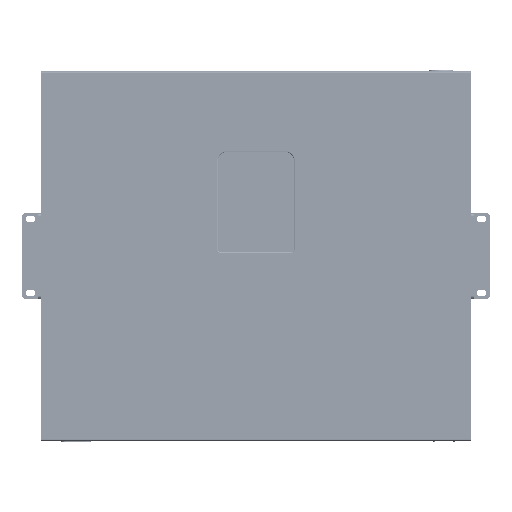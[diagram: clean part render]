
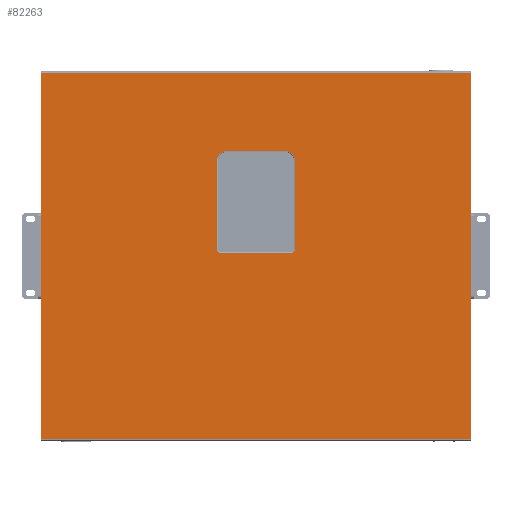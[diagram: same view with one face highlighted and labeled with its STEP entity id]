
A CAD part, front view. The second image highlights one B-rep face of the part: STEP entity #82263.
In plain terms, the highlighted planar face has unit normal (0, -1, 0).
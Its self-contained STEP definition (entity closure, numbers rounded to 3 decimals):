
#2909 = VERTEX_POINT ( 'NONE', #248722 ) ;
#3036 = VERTEX_POINT ( 'NONE', #143486 ) ;
#3383 = EDGE_CURVE ( 'NONE', #136715, #126022, #215223, .T. ) ;
#6390 = DIRECTION ( 'NONE',  ( -1., 0., 0. ) ) ;
#10913 = ORIENTED_EDGE ( 'NONE', *, *, #108799, .F. ) ;
#14272 = ORIENTED_EDGE ( 'NONE', *, *, #126897, .T. ) ;
#19948 = DIRECTION ( 'NONE',  ( 0., 1., 0. ) ) ;
#21394 = DIRECTION ( 'NONE',  ( 0., 0., 1. ) ) ;
#27799 = LINE ( 'NONE', #241231, #219683 ) ;
#31860 = DIRECTION ( 'NONE',  ( 0., 0., 1. ) ) ;
#33067 = DIRECTION ( 'NONE',  ( 0., 0., 1. ) ) ;
#34026 = AXIS2_PLACEMENT_3D ( 'NONE', #43295, #130186, #216999 ) ;
#35843 = EDGE_CURVE ( 'NONE', #2909, #109086, #265339, .T. ) ;
#37275 = DIRECTION ( 'NONE',  ( 0., 0., -1. ) ) ;
#42375 = DIRECTION ( 'NONE',  ( 0., 0., -1. ) ) ;
#43295 = CARTESIAN_POINT ( 'NONE',  ( -31., 0., -91.5 ) ) ;
#43357 = CARTESIAN_POINT ( 'NONE',  ( 40.018, 0., -183.5 ) ) ;
#47294 = DIRECTION ( 'NONE',  ( 0., 0., 1. ) ) ;
#47298 = CIRCLE ( 'NONE', #265439, 4.018 ) ;
#47795 = ORIENTED_EDGE ( 'NONE', *, *, #88976, .T. ) ;
#51467 = LINE ( 'NONE', #176905, #81908 ) ;
#59534 = CARTESIAN_POINT ( 'NONE',  ( 221.5, 0., -381. ) ) ;
#63149 = VERTEX_POINT ( 'NONE', #245375 ) ;
#71940 = VECTOR ( 'NONE', #227772, 1000. ) ;
#73157 = VECTOR ( 'NONE', #271735, 1000. ) ;
#75946 = CARTESIAN_POINT ( 'NONE',  ( -40.018, 0., -91.5 ) ) ;
#79139 = EDGE_CURVE ( 'NONE', #181789, #188077, #47298, .T. ) ;
#80632 = EDGE_LOOP ( 'NONE', ( #10913, #233728, #119915, #84868 ) ) ;
#81908 = VECTOR ( 'NONE', #47294, 1000. ) ;
#82263 = ADVANCED_FACE ( 'NONE', ( #148840, #127394 ), #101791, .F. ) ;
#83179 = DIRECTION ( 'NONE',  ( 0., 0., 1. ) ) ;
#83360 = EDGE_CURVE ( 'NONE', #188077, #131880, #142841, .T. ) ;
#84868 = ORIENTED_EDGE ( 'NONE', *, *, #148171, .T. ) ;
#88976 = EDGE_CURVE ( 'NONE', #131631, #181789, #180970, .T. ) ;
#96441 = CARTESIAN_POINT ( 'NONE',  ( -40.018, 0., -91.5 ) ) ;
#100331 = CARTESIAN_POINT ( 'NONE',  ( -40.018, 0., -183.5 ) ) ;
#101791 = PLANE ( 'NONE',  #272269 ) ;
#104938 = ORIENTED_EDGE ( 'NONE', *, *, #3383, .T. ) ;
#108799 = EDGE_CURVE ( 'NONE', #2909, #3036, #51467, .T. ) ;
#109086 = VERTEX_POINT ( 'NONE', #271710 ) ;
#113195 = ORIENTED_EDGE ( 'NONE', *, *, #264216, .T. ) ;
#119915 = ORIENTED_EDGE ( 'NONE', *, *, #176641, .F. ) ;
#122900 = DIRECTION ( 'NONE',  ( 0., 1., 0. ) ) ;
#124521 = CARTESIAN_POINT ( 'NONE',  ( 0., 0., 0. ) ) ;
#125657 = EDGE_LOOP ( 'NONE', ( #14272, #113195, #104938, #219270, #47795, #144237, #269689, #276453 ) ) ;
#126022 = VERTEX_POINT ( 'NONE', #43357 ) ;
#126897 = EDGE_CURVE ( 'NONE', #250284, #63149, #251720, .T. ) ;
#127394 = FACE_OUTER_BOUND ( 'NONE', #80632, .T. ) ;
#130186 = DIRECTION ( 'NONE',  ( 0., 1., 0. ) ) ;
#131631 = VERTEX_POINT ( 'NONE', #274508 ) ;
#131880 = VERTEX_POINT ( 'NONE', #96441 ) ;
#133683 = VERTEX_POINT ( 'NONE', #180719 ) ;
#136715 = VERTEX_POINT ( 'NONE', #273480 ) ;
#138779 = DIRECTION ( 'NONE',  ( 1., 0., 0. ) ) ;
#139840 = AXIS2_PLACEMENT_3D ( 'NONE', #254977, #145572, #33067 ) ;
#142841 = LINE ( 'NONE', #75946, #177053 ) ;
#143486 = CARTESIAN_POINT ( 'NONE',  ( -221.5, 0., -1.6 ) ) ;
#144237 = ORIENTED_EDGE ( 'NONE', *, *, #79139, .T. ) ;
#145572 = DIRECTION ( 'NONE',  ( 0., 1., 0. ) ) ;
#148171 = EDGE_CURVE ( 'NONE', #133683, #3036, #27799, .T. ) ;
#148840 = FACE_BOUND ( 'NONE', #125657, .T. ) ;
#150694 = VECTOR ( 'NONE', #42375, 1000. ) ;
#155507 = EDGE_CURVE ( 'NONE', #126022, #131631, #213245, .T. ) ;
#162808 = DIRECTION ( 'NONE',  ( 0., 0., 1. ) ) ;
#176641 = EDGE_CURVE ( 'NONE', #133683, #109086, #234563, .T. ) ;
#176905 = CARTESIAN_POINT ( 'NONE',  ( -221.5, 0., -381. ) ) ;
#177053 = VECTOR ( 'NONE', #162808, 1000. ) ;
#180171 = VECTOR ( 'NONE', #37275, 1000. ) ;
#180719 = CARTESIAN_POINT ( 'NONE',  ( 221.5, 0., -1.6 ) ) ;
#180970 = LINE ( 'NONE', #226429, #71940 ) ;
#181789 = VERTEX_POINT ( 'NONE', #251665 ) ;
#184117 = CIRCLE ( 'NONE', #34026, 9.018 ) ;
#188077 = VERTEX_POINT ( 'NONE', #100331 ) ;
#195176 = AXIS2_PLACEMENT_3D ( 'NONE', #237612, #19948, #21394 ) ;
#202587 = EDGE_CURVE ( 'NONE', #131880, #250284, #184117, .T. ) ;
#213245 = CIRCLE ( 'NONE', #195176, 4.018 ) ;
#215223 = LINE ( 'NONE', #237874, #180171 ) ;
#216999 = DIRECTION ( 'NONE',  ( 0., 0., 1. ) ) ;
#219270 = ORIENTED_EDGE ( 'NONE', *, *, #155507, .T. ) ;
#219683 = VECTOR ( 'NONE', #6390, 1000. ) ;
#219713 = CARTESIAN_POINT ( 'NONE',  ( -31., 0., -82.482 ) ) ;
#226429 = CARTESIAN_POINT ( 'NONE',  ( -36., 0., -187.518 ) ) ;
#227772 = DIRECTION ( 'NONE',  ( -1., 0., 0. ) ) ;
#228248 = CARTESIAN_POINT ( 'NONE',  ( -36., 0., -183.5 ) ) ;
#231338 = DIRECTION ( 'NONE',  ( 0., 1., 0. ) ) ;
#233226 = CARTESIAN_POINT ( 'NONE',  ( 31., 0., -82.482 ) ) ;
#233728 = ORIENTED_EDGE ( 'NONE', *, *, #35843, .T. ) ;
#234563 = LINE ( 'NONE', #59534, #150694 ) ;
#237612 = CARTESIAN_POINT ( 'NONE',  ( 36., 0., -183.5 ) ) ;
#237874 = CARTESIAN_POINT ( 'NONE',  ( 40.018, 0., -183.5 ) ) ;
#241231 = CARTESIAN_POINT ( 'NONE',  ( 0., 0., -1.6 ) ) ;
#245375 = CARTESIAN_POINT ( 'NONE',  ( 31., 0., -82.482 ) ) ;
#246792 = CARTESIAN_POINT ( 'NONE',  ( 0., 0., -379.4 ) ) ;
#248722 = CARTESIAN_POINT ( 'NONE',  ( -221.5, 0., -379.4 ) ) ;
#250284 = VERTEX_POINT ( 'NONE', #219713 ) ;
#251665 = CARTESIAN_POINT ( 'NONE',  ( -36., 0., -187.518 ) ) ;
#251720 = LINE ( 'NONE', #233226, #73157 ) ;
#254977 = CARTESIAN_POINT ( 'NONE',  ( 31., 0., -91.5 ) ) ;
#261980 = VECTOR ( 'NONE', #138779, 1000. ) ;
#262420 = CIRCLE ( 'NONE', #139840, 9.018 ) ;
#264216 = EDGE_CURVE ( 'NONE', #63149, #136715, #262420, .T. ) ;
#265339 = LINE ( 'NONE', #246792, #261980 ) ;
#265439 = AXIS2_PLACEMENT_3D ( 'NONE', #228248, #122900, #31860 ) ;
#269689 = ORIENTED_EDGE ( 'NONE', *, *, #83360, .T. ) ;
#271710 = CARTESIAN_POINT ( 'NONE',  ( 221.5, 0., -379.4 ) ) ;
#271735 = DIRECTION ( 'NONE',  ( 1., 0., 0. ) ) ;
#272269 = AXIS2_PLACEMENT_3D ( 'NONE', #124521, #231338, #83179 ) ;
#273480 = CARTESIAN_POINT ( 'NONE',  ( 40.018, 0., -91.5 ) ) ;
#274508 = CARTESIAN_POINT ( 'NONE',  ( 36., 0., -187.518 ) ) ;
#276453 = ORIENTED_EDGE ( 'NONE', *, *, #202587, .T. ) ;
